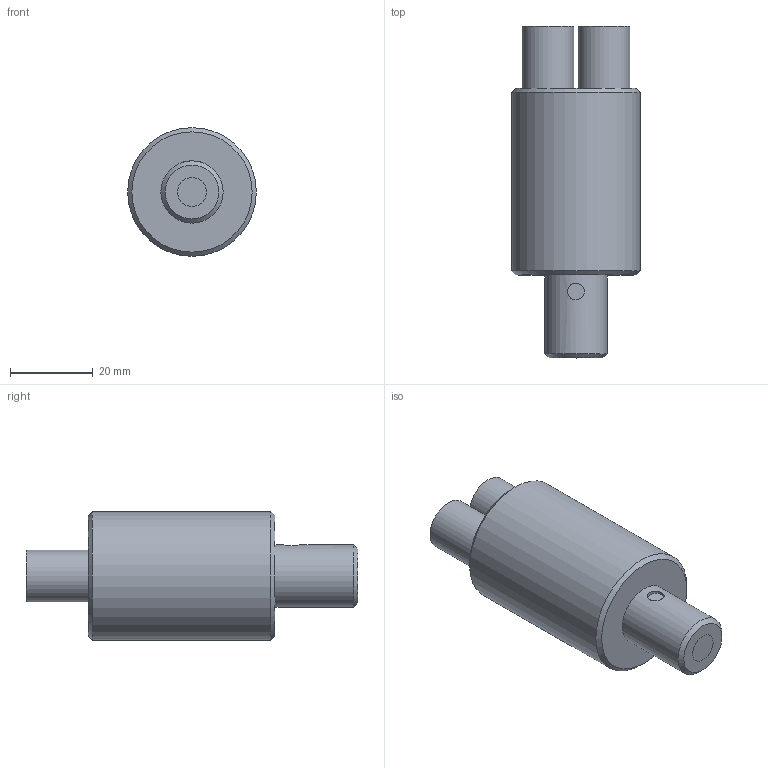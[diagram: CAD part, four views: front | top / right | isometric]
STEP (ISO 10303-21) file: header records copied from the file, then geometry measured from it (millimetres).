
FILE_DESCRIPTION(/* description */ (''),/* implementation_level */ '2;1');
FILE_NAME(/* name */ '',/* time_stamp */ '2023-01-13T13:07:41+09:00',/* author */ (''),/* organization */ (''),/* preprocessor_version */ 'ST-DEVELOPER v19.2',/* originating_system */ 'Autodesk Translation Framework v11.17.0.187',/* authorisation */ '');
FILE_SCHEMA (('AUTOMOTIVE_DESIGN { 1 0 10303 214 3 1 1 }'));
Length unit declared in the file: millimetre
Products named in the file (1): LGA2-5L500N 受光部
Bounding box: 31 x 80 x 31 mm (x, y, z)
Volume: 39898.8 mm3; surface area: 9491.6 mm2
Topology: 2 solids, 2 shells, 19 faces, 29 edges, 19 vertices
Faces by surface type: plane 9, cylinder 7, cone 3
Full cylindrical faces by diameter (mm): 4 x1, 7 x2, 12.5 x2, 15 x1, 31 x1
Entity records: 492 total; most frequent: CARTESIAN_POINT 103, DIRECTION 82, ORIENTED_EDGE 58, AXIS2_PLACEMENT_3D 36, EDGE_CURVE 29, EDGE_LOOP 24, FACE_OUTER_BOUND 19, VERTEX_POINT 19
